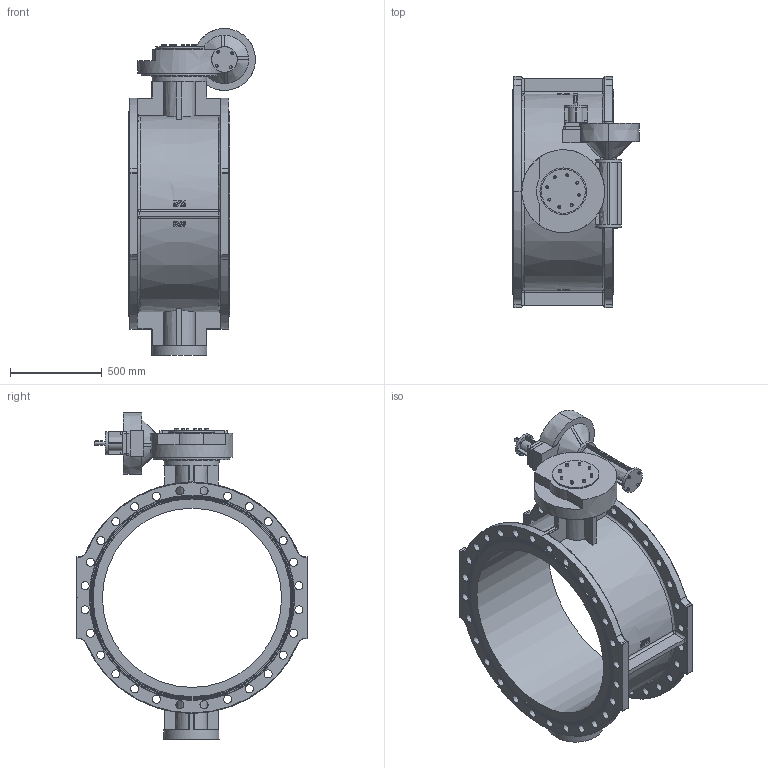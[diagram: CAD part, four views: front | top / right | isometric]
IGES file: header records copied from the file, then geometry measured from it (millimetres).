
Start section: SolidWorks IGES file using analytic representation for surfaces
Global section: file name: \\avksan2\techshare\PBM outline export from Enovia\O_756_1_DN1000_11XX02_AA0.igs; native system: SolidWorks 2012; preprocessor: SolidWorks 2012; author: pbm; date: 191219.115050; units: millimetre
Bounding box: 688.99 x 1255 x 1777 mm (x, y, z)
Surface area: 7238857.3 mm2 (no closed solid volume)
Topology: 0 solids, 0 shells, 1016 faces, 5456 edges, 5216 vertices
Faces by surface type: bspline 617, revolution 399
